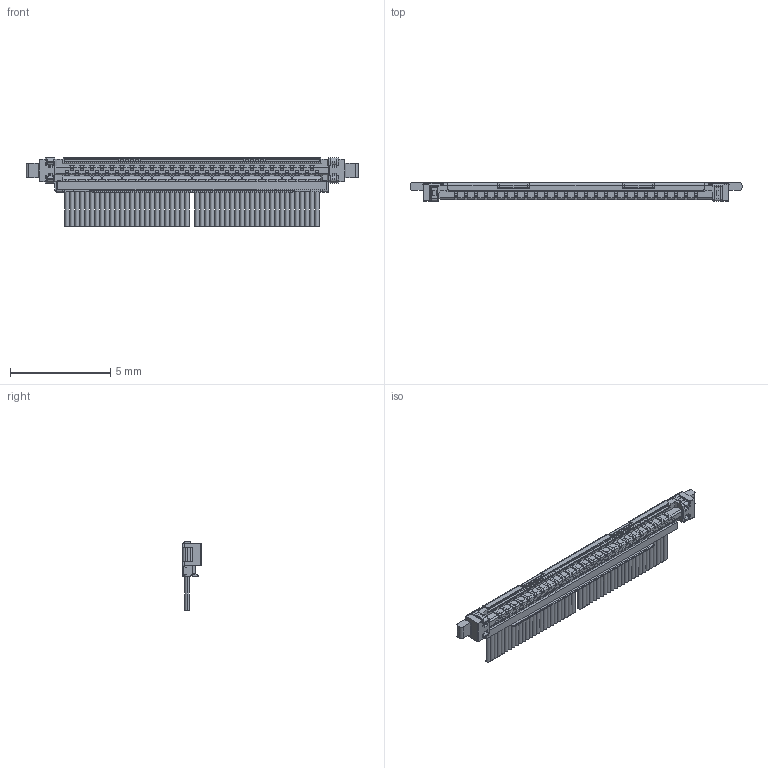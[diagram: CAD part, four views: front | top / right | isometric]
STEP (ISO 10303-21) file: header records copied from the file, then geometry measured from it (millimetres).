
FILE_DESCRIPTION (( 'STEP AP203' ), '1' );
FILE_NAME ('20531-050TxxxC PLUG CABLE ASS''Y STEP R2R1 ALL.STEP', '2014-06-13T07:12:59', ( '' ), ( '' ), 'SwSTEP 2.0', 'SolidWorks 2012', '' );
FILE_SCHEMA (( 'CONFIG_CONTROL_DESIGN' ));
Products named in the file (1): 20531-050TxxxC PLUG CABLE ASS''Y STEP R2R1 ALL
Bounding box: 16.6 x 0.94 x 3.41 mm (x, y, z)
Volume: 18.5 mm3; surface area: 168.2 mm2
Topology: 1 solids, 7 shells, 2103 faces, 6025 edges, 3966 vertices
Faces by surface type: plane 1644, cylinder 455, cone 4
Entity records: 68116 total; most frequent: CARTESIAN_POINT 12293, ORIENTED_EDGE 12050, DIRECTION 11135, EDGE_CURVE 6025, VECTOR 4991, LINE 4991, VERTEX_POINT 3966, AXIS2_PLACEMENT_3D 3072
